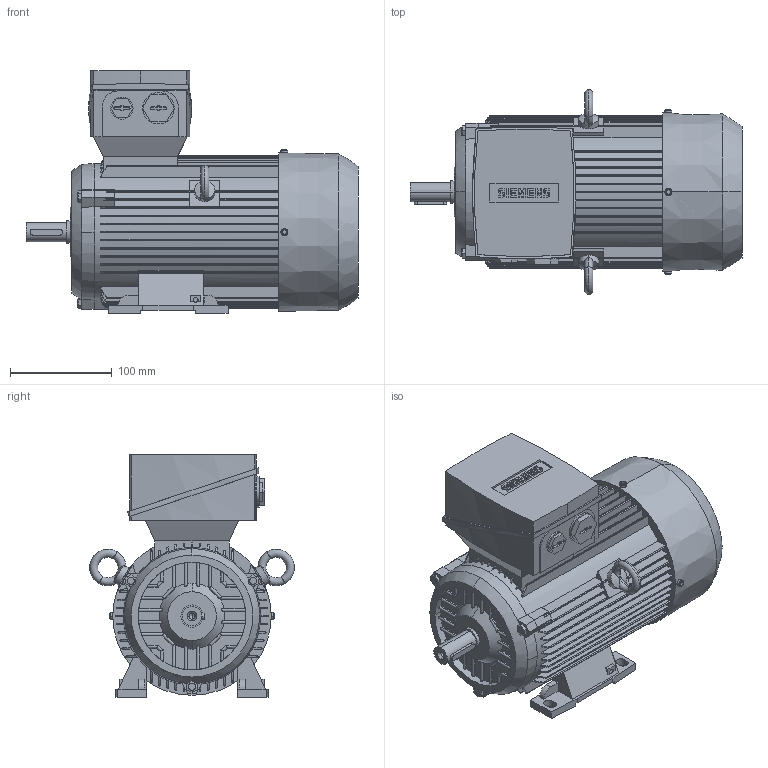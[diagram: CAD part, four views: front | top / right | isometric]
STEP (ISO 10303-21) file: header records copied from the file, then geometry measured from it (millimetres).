
FILE_DESCRIPTION(('STEP AP214'),'1');
FILE_NAME('cctmp_DACF21FC-7A73-49B0-8B87-357A11533375_2021_11_4_18_3_33_301..stp','2021-11-04T17:03:33',('SIEMENS A&D'),('CADClick - www.CADClick.com'),'Spatial InterOp 3D',' ','unknown authorization');
FILE_SCHEMA(('AUTOMOTIVE_DESIGN'));
Length unit declared in the file: millimetre
Products named in the file (1): 2021_11_04__18-03-33-284
Bounding box: 327 x 201.67 x 239 mm (x, y, z)
Volume: 5506328.8 mm3; surface area: 363307.1 mm2
Topology: 1 solids, 1 shells, 946 faces, 2720 edges, 1766 vertices
Faces by surface type: plane 628, cylinder 229, torus 58, cone 27, sphere 4
Entity records: 41454 total; most frequent: CARTESIAN_POINT 9193, ORIENTED_EDGE 5356, DIRECTION 4985, EDGE_CURVE 2678, VERTEX_POINT 1766, LINE 1707, VECTOR 1707, AXIS2_PLACEMENT_3D 1639
